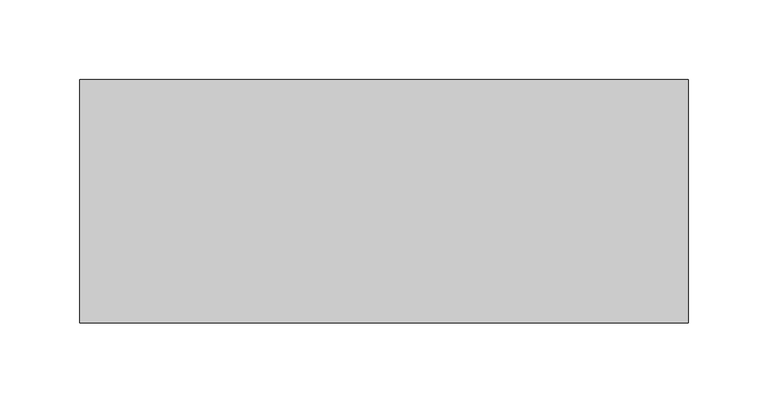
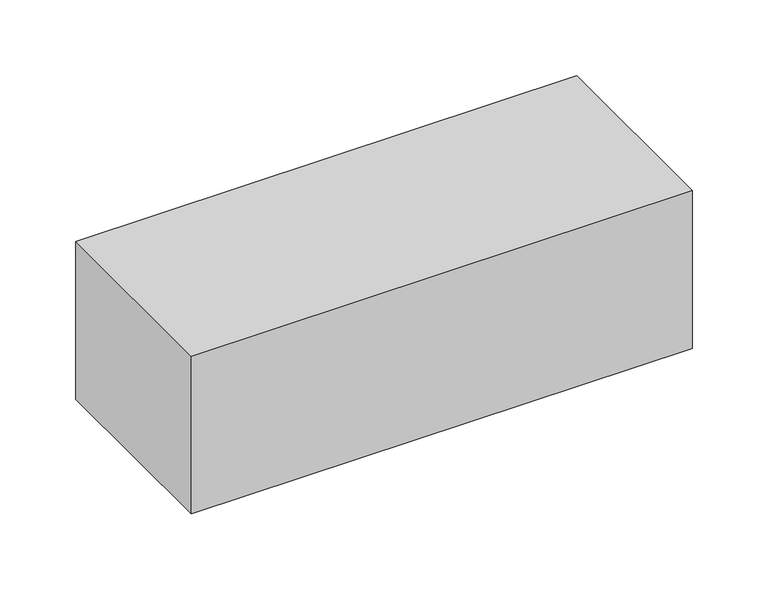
"""IFC4 building model written with IfcOpenShell, lengths in millimetres: proxy geometry, DATUM^OFFICE 1_DESK-BOTTOM RISER."""

from ifc_helpers import new_model, si_unit, frame, origin, place, context, project, spatial, polyline, outline, extrude, source, transform, mapped, element, save


def generic_models_0fb66c6c(model_context):
    return source(origin(), model_context, "Body", "SweptSolid", [
        extrude(outline(polyline([(0.0, 0.0), (0.0, 152.4), (381.0, 152.4), (381.0, 0.0), (0.0, 0.0)])), frame((0.0, 0.0, -127.0), z_axis=(0.0, 0.0, 1.0), x_axis=(1.0, 0.0, 0.0)), (0.0, 0.0, 1.0), 127.0),
    ])


if __name__ == "__main__":
    model = new_model("IFC4")
    model_context = context("Model", 3, world=origin())
    ifc_project = project(units=[si_unit("LENGTHUNIT", "METRE", prefix="MILLI")], contexts=[model_context])
    site = spatial("IfcSite", under=ifc_project)
    building = spatial("IfcBuilding", under=site)
    placement = place(None, origin())
    generic_models_shape = generic_models_0fb66c6c(model_context)
    element("IfcBuildingElementProxy", 1, Name="DATUM^OFFICE 1_DESK-BOTTOM RISER", ObjectType="DATUM^OFFICE 1_DESK-BOTTOM RISER", at=placement, inside=building, context=model_context, shape_type="MappedRepresentation", body=[
        mapped(generic_models_shape, transform((0.0, 0.0, 0.0), x_axis=(1.0, 0.0, 0.0), y_axis=(0.0, 1.0, 0.0), z_axis=(0.0, 0.0, 1.0))),
    ])
    save(model, "model.ifc")
